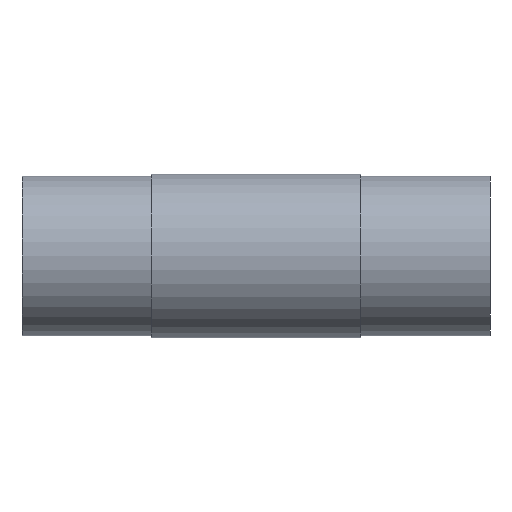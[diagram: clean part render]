
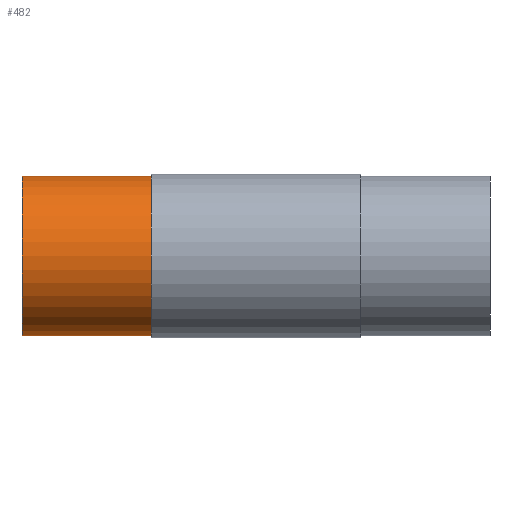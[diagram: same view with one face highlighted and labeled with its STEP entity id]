
A CAD part, left-side view. The second image highlights one B-rep face of the part: STEP entity #482.
In plain terms, the highlighted cylindrical face has radius 62.5 mm (diameter 125 mm), a full revolution.
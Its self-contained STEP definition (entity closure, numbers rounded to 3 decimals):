
#450=CARTESIAN_POINT('',(-62.5,82.,0.));
#451=VERTEX_POINT('',#450);
#452=CARTESIAN_POINT('',(0.,82.,0.));
#453=DIRECTION('',(0.,-1.,0.));
#454=DIRECTION('',(-1.,0.,0.));
#455=AXIS2_PLACEMENT_3D('',#452,#453,#454);
#456=CIRCLE('',#455,62.5);
#457=EDGE_CURVE('',#451,#451,#456,.T.);
#458=ORIENTED_EDGE('',*,*,#457,.F.);
#459=CARTESIAN_POINT('',(-62.5,183.,0.));
#460=VERTEX_POINT('',#459);
#461=CARTESIAN_POINT('',(-62.5,132.5,0.));
#462=DIRECTION('',(0.,-1.,0.));
#463=VECTOR('',#462,62.5);
#464=LINE('',#461,#463);
#465=EDGE_CURVE('',#460,#451,#464,.T.);
#466=ORIENTED_EDGE('',*,*,#465,.F.);
#467=CARTESIAN_POINT('',(0.,183.,0.));
#468=DIRECTION('',(0.,-1.,0.));
#469=DIRECTION('',(-1.,0.,0.));
#470=AXIS2_PLACEMENT_3D('',#467,#468,#469);
#471=CIRCLE('',#470,62.5);
#472=EDGE_CURVE('',#460,#460,#471,.T.);
#473=ORIENTED_EDGE('',*,*,#472,.T.);
#474=ORIENTED_EDGE('',*,*,#465,.T.);
#475=EDGE_LOOP('',(#458,#466,#473,#474));
#476=FACE_OUTER_BOUND('',#475,.T.);
#477=CARTESIAN_POINT('',(0.,132.5,0.));
#478=DIRECTION('',(0.,-1.,0.));
#479=DIRECTION('',(-1.,0.,0.));
#480=AXIS2_PLACEMENT_3D('',#477,#478,#479);
#481=CYLINDRICAL_SURFACE('',#480,62.5);
#482=ADVANCED_FACE('',(#476),#481,.T.);
